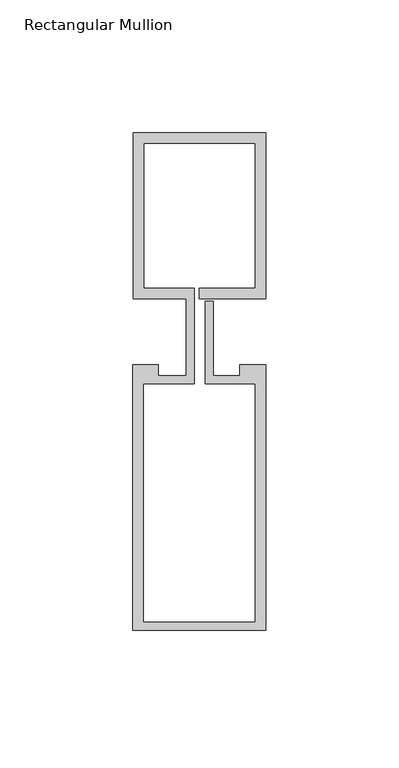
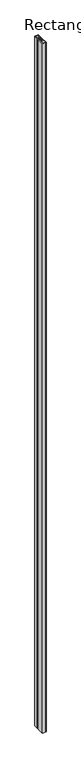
"""IFC4 building model written with IfcOpenShell, lengths in millimetres: member geometry, Rectangular Mullion : Reynaers_CW-50_Mullion-Transom_Vertical_62.5mm_Facecap-02D."""

from ifc_helpers import new_model, si_unit, frame, origin, place, context, project, spatial, polyline, outline, extrude, source, transform, mapped, element, save


def rectangular_mullion_a97a1aab(model_context):
    return source(origin(), model_context, "Body", "SweptSolid", [
        extrude(outline(polyline([(-24.8004059, 75.0), (25.1995941, 75.0), (25.1995941, 12.5), (0.0, 12.5), (0.0, 16.5), (21.1995941, 16.5), (21.1995941, 71.0), (-20.8004059, 71.0), (-20.8004059, 16.5), (-1.9004059, 16.5), (-1.9004059, -19.5), (-20.994845, -19.5), (-20.994845, -109.4191338), (21.1995941, -109.4191338), (21.1995941, -19.5), (2.2995941, -19.5), (2.2995941, 11.5), (5.2995941, 11.5), (5.2995941, -16.5), (15.2996495, -16.5), (15.2996495, -12.5), (25.1995941, -12.5), (25.1995941, -112.5), (-24.994845, -112.5), (-24.994845, -12.5), (-15.2996495, -12.5), (-15.2996495, -16.5), (-4.9004059, -16.5), (-4.9004059, 12.5), (-24.8004059, 12.5), (-24.8004059, 75.0)])), frame((0.0, 0.0, -10400.0), z_axis=(0.0, 0.0, 1.0), x_axis=(1.0, 0.0, 0.0)), (0.0, 0.0, 1.0), 10400.0),
    ])


if __name__ == "__main__":
    model = new_model("IFC4")
    model_context = context("Model", 3, world=origin())
    ifc_project = project(units=[si_unit("LENGTHUNIT", "METRE", prefix="MILLI")], contexts=[model_context])
    site = spatial("IfcSite", under=ifc_project)
    building = spatial("IfcBuilding", under=site)
    placement = place(None, origin())
    rectangular_mullion_shape = rectangular_mullion_a97a1aab(model_context)
    element("IfcMember", 1, ObjectType="Rectangular Mullion : Reynaers_CW-50_Mullion-Transom_Vertical_62.5mm_Facecap-02D", at=placement, inside=building, context=model_context, shape_type="MappedRepresentation", body=[
        mapped(rectangular_mullion_shape, transform((0.0, 0.0, 0.0), x_axis=(1.0, 0.0, 0.0), y_axis=(0.0, 1.0, 0.0), z_axis=(0.0, 0.0, 1.0))),
    ])
    save(model, "model.ifc")
